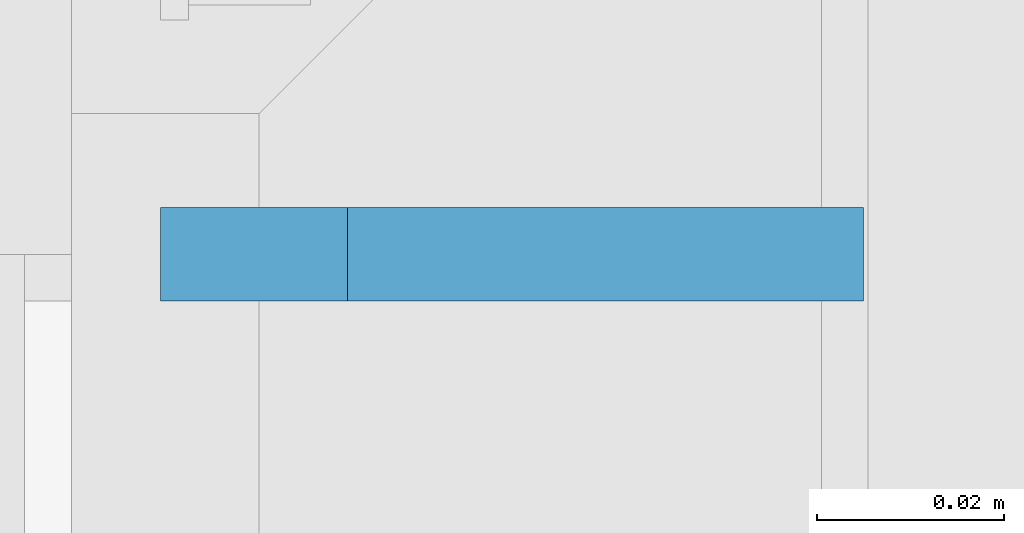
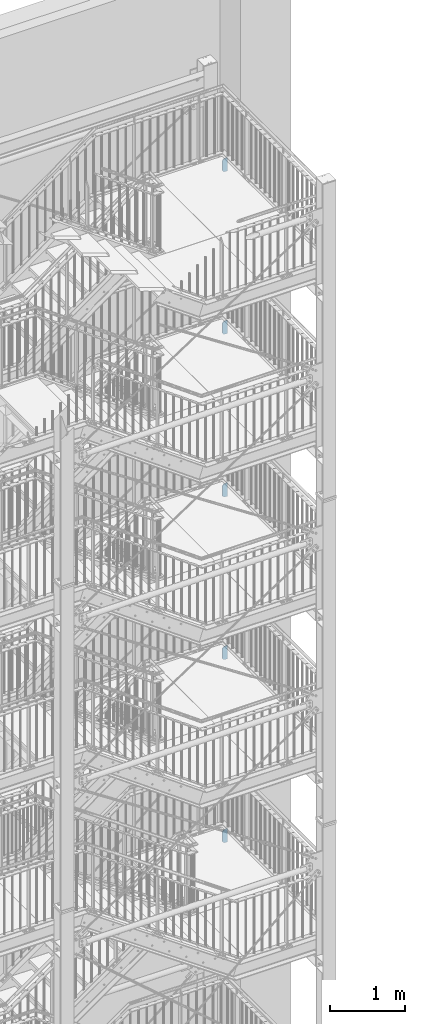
# One storey, part 207 of 825: 5 plates, 10 openings.
"""IFC2X3 building model written with IfcOpenShell, lengths in millimetres."""

from ifc_helpers import new_model, entity, si_unit, converted_unit, frame, origin, origin_with_axes, place, context, project, spatial, polyline, outline, extrude, material, layer, layer_set, element, save


model = new_model("IFC2X3")

# Units and contexts
model_context = context("Model", 3, precision=1e-09, world=origin_with_axes())
ifc_project = project(units=[si_unit("LENGTHUNIT", "METRE", prefix="MILLI"), si_unit("AREAUNIT", "SQUARE_METRE"), si_unit("VOLUMEUNIT", "CUBIC_METRE"), converted_unit("PLANEANGLEUNIT", "DEGREE", entity("IfcPlaneAngleMeasure", 0.01745329), si_unit("PLANEANGLEUNIT", "RADIAN"), dimensions=[0, 0, 0, 0, 0, 0, 0])], contexts=[model_context])

# Site, building, storey
site_placement = place(None, origin_with_axes())
site = spatial("IfcSite", under=ifc_project, at=site_placement, Name="Cnopf'sche Kinderklinik", CompositionType="ELEMENT")
building_placement = place(site_placement, origin_with_axes())
building = spatial("IfcBuilding", under=site, at=building_placement, Name="Struktur 1", CompositionType="ELEMENT")
storey_placement = place(building_placement, origin_with_axes())
storey = spatial("IfcBuildingStorey", under=building, at=storey_placement, Name="Default Storey", CompositionType="ELEMENT", Elevation=0.0)

# Plate, openings
ifc_material = material(Name="S235JR")
ifc_layer = layer(ifc_material, 10.0)
ifc_layer_set = layer_set([ifc_layer], Name="S235JR")
plate_1_placement = place(None, frame((8981.213402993, 7306.736971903, 16506.855162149), z_axis=(0.0, 1.0, 0.0), x_axis=(0.996815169, 0.0, 0.079746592)))
plate_1 = element("IfcPlate", 1, at=plate_1_placement, inside=storey, material=ifc_layer_set, Name="Stiffener#1", ObjectType="Stiffener#1", context=model_context, shape_type="SweptSolid", body=[
    extrude(outline(polyline([(0.0, 0.0), (75.239625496, 0.0), (57.877952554, 217.017159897), (-16.404697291, 205.05517107), (0.0, 0.0)])), origin_with_axes(), (0.0, 0.0, 1.0), 10.0),
])
opening_1_placement = place(plate_1_placement, frame((0.0, 0.0, -0.01), z_axis=(0.0, 0.0, 1.0), x_axis=(1.0, 0.0, 0.0)))
element("IfcOpeningElement", 2, at=opening_1_placement, cuts=plate_1, ObjectType="Opening", context=model_context, shape_type="SweptSolid", body=[
    extrude(outline(polyline([(-16.404697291, 205.05517107), (-14.809765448, 185.118867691), (3.34092195, 208.23487558), (-16.404697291, 205.05517107)])), origin(), (0.0, 0.0, 1.0), 10.02),
])
opening_2_placement = place(plate_1_placement, frame((0.0, 0.0, -0.01), z_axis=(0.0, 0.0, 1.0), x_axis=(1.0, 0.0, 0.0)))
element("IfcOpeningElement", 3, at=opening_2_placement, cuts=plate_1, ObjectType="Opening", context=model_context, shape_type="SweptSolid", body=[
    extrude(outline(polyline([(0.0, 0.0), (20.0, 0.0), (-1.594931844, 19.936303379), (0.0, 0.0)])), origin(), (0.0, 0.0, 1.0), 10.02),
])

plate_2_placement = place(None, frame((8981.213402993, 7306.736971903, 13879.355161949), z_axis=(0.0, 1.0, 0.0), x_axis=(0.996815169, 0.0, 0.079746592)))
plate_2 = element("IfcPlate", 4, at=plate_2_placement, inside=storey, material=ifc_layer_set, Name="Stiffener#1", ObjectType="Stiffener#1", context=model_context, shape_type="SweptSolid", body=[
    extrude(outline(polyline([(0.0, 0.0), (75.239625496, 0.0), (57.877952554, 217.017159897), (-16.404697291, 205.05517107), (0.0, 0.0)])), origin_with_axes(), (0.0, 0.0, 1.0), 10.0),
])
opening_3_placement = place(plate_2_placement, frame((0.0, 0.0, -0.01), z_axis=(0.0, 0.0, 1.0), x_axis=(1.0, 0.0, 0.0)))
element("IfcOpeningElement", 5, at=opening_3_placement, cuts=plate_2, ObjectType="Opening", context=model_context, shape_type="SweptSolid", body=[
    extrude(outline(polyline([(-16.404697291, 205.05517107), (-14.809765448, 185.118867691), (3.34092195, 208.23487558), (-16.404697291, 205.05517107)])), origin(), (0.0, 0.0, 1.0), 10.02),
])
opening_4_placement = place(plate_2_placement, frame((0.0, 0.0, -0.01), z_axis=(0.0, 0.0, 1.0), x_axis=(1.0, 0.0, 0.0)))
element("IfcOpeningElement", 6, at=opening_4_placement, cuts=plate_2, ObjectType="Opening", context=model_context, shape_type="SweptSolid", body=[
    extrude(outline(polyline([(0.0, 0.0), (20.0, 0.0), (-1.594931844, 19.936303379), (0.0, 0.0)])), origin(), (0.0, 0.0, 1.0), 10.02),
])

plate_3_placement = place(None, frame((8981.213402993, 7306.736971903, 11248.355162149), z_axis=(0.0, 1.0, 0.0), x_axis=(0.996815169, 0.0, 0.079746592)))
plate_3 = element("IfcPlate", 7, at=plate_3_placement, inside=storey, material=ifc_layer_set, Name="Stiffener#1", ObjectType="Stiffener#1", context=model_context, shape_type="SweptSolid", body=[
    extrude(outline(polyline([(0.0, 0.0), (75.239625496, 0.0), (57.877952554, 217.017159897), (-16.404697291, 205.05517107), (0.0, 0.0)])), origin_with_axes(), (0.0, 0.0, 1.0), 10.0),
])
opening_5_placement = place(plate_3_placement, frame((0.0, 0.0, -0.01), z_axis=(0.0, 0.0, 1.0), x_axis=(1.0, 0.0, 0.0)))
element("IfcOpeningElement", 8, at=opening_5_placement, cuts=plate_3, ObjectType="Opening", context=model_context, shape_type="SweptSolid", body=[
    extrude(outline(polyline([(-16.404697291, 205.05517107), (-14.809765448, 185.118867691), (3.34092195, 208.23487558), (-16.404697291, 205.05517107)])), origin(), (0.0, 0.0, 1.0), 10.02),
])
opening_6_placement = place(plate_3_placement, frame((0.0, 0.0, -0.01), z_axis=(0.0, 0.0, 1.0), x_axis=(1.0, 0.0, 0.0)))
element("IfcOpeningElement", 9, at=opening_6_placement, cuts=plate_3, ObjectType="Opening", context=model_context, shape_type="SweptSolid", body=[
    extrude(outline(polyline([(0.0, 0.0), (20.0, 0.0), (-1.594931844, 19.936303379), (0.0, 0.0)])), origin(), (0.0, 0.0, 1.0), 10.02),
])

plate_4_placement = place(None, frame((8981.213402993, 7306.736971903, 8618.855161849), z_axis=(0.0, 1.0, 0.0), x_axis=(0.996815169, 0.0, 0.079746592)))
plate_4 = element("IfcPlate", 10, at=plate_4_placement, inside=storey, material=ifc_layer_set, Name="Stiffener#1", ObjectType="Stiffener#1", context=model_context, shape_type="SweptSolid", body=[
    extrude(outline(polyline([(0.0, 0.0), (75.239625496, 0.0), (57.877952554, 217.017159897), (-16.404697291, 205.05517107), (0.0, 0.0)])), origin_with_axes(), (0.0, 0.0, 1.0), 10.0),
])
opening_7_placement = place(plate_4_placement, frame((0.0, 0.0, -0.01), z_axis=(0.0, 0.0, 1.0), x_axis=(1.0, 0.0, 0.0)))
element("IfcOpeningElement", 11, at=opening_7_placement, cuts=plate_4, ObjectType="Opening", context=model_context, shape_type="SweptSolid", body=[
    extrude(outline(polyline([(-16.404697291, 205.05517107), (-14.809765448, 185.118867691), (3.34092195, 208.23487558), (-16.404697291, 205.05517107)])), origin(), (0.0, 0.0, 1.0), 10.02),
])
opening_8_placement = place(plate_4_placement, frame((0.0, 0.0, -0.01), z_axis=(0.0, 0.0, 1.0), x_axis=(1.0, 0.0, 0.0)))
element("IfcOpeningElement", 12, at=opening_8_placement, cuts=plate_4, ObjectType="Opening", context=model_context, shape_type="SweptSolid", body=[
    extrude(outline(polyline([(0.0, 0.0), (20.0, 0.0), (-1.594931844, 19.936303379), (0.0, 0.0)])), origin(), (0.0, 0.0, 1.0), 10.02),
])

plate_5_placement = place(None, frame((8981.213402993, 7306.736971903, 5657.749898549), z_axis=(0.0, 1.0, 0.0), x_axis=(0.996815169, 0.0, 0.079746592)))
plate_5 = element("IfcPlate", 13, at=plate_5_placement, inside=storey, material=ifc_layer_set, Name="Stiffener#1", ObjectType="Stiffener#1", context=model_context, shape_type="SweptSolid", body=[
    extrude(outline(polyline([(0.0, 0.0), (75.239625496, 0.0), (57.877952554, 217.017159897), (-16.404697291, 205.05517107), (0.0, 0.0)])), origin_with_axes(), (0.0, 0.0, 1.0), 10.0),
])
opening_9_placement = place(plate_5_placement, frame((0.0, 0.0, -0.01), z_axis=(0.0, 0.0, 1.0), x_axis=(1.0, 0.0, 0.0)))
element("IfcOpeningElement", 14, at=opening_9_placement, cuts=plate_5, ObjectType="Opening", context=model_context, shape_type="SweptSolid", body=[
    extrude(outline(polyline([(-16.404697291, 205.05517107), (-14.809765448, 185.118867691), (3.34092195, 208.23487558), (-16.404697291, 205.05517107)])), origin(), (0.0, 0.0, 1.0), 10.02),
])
opening_10_placement = place(plate_5_placement, frame((0.0, 0.0, -0.01), z_axis=(0.0, 0.0, 1.0), x_axis=(1.0, 0.0, 0.0)))
element("IfcOpeningElement", 15, at=opening_10_placement, cuts=plate_5, ObjectType="Opening", context=model_context, shape_type="SweptSolid", body=[
    extrude(outline(polyline([(0.0, 0.0), (20.0, 0.0), (-1.594931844, 19.936303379), (0.0, 0.0)])), origin(), (0.0, 0.0, 1.0), 10.02),
])

save(model, "model.ifc")
